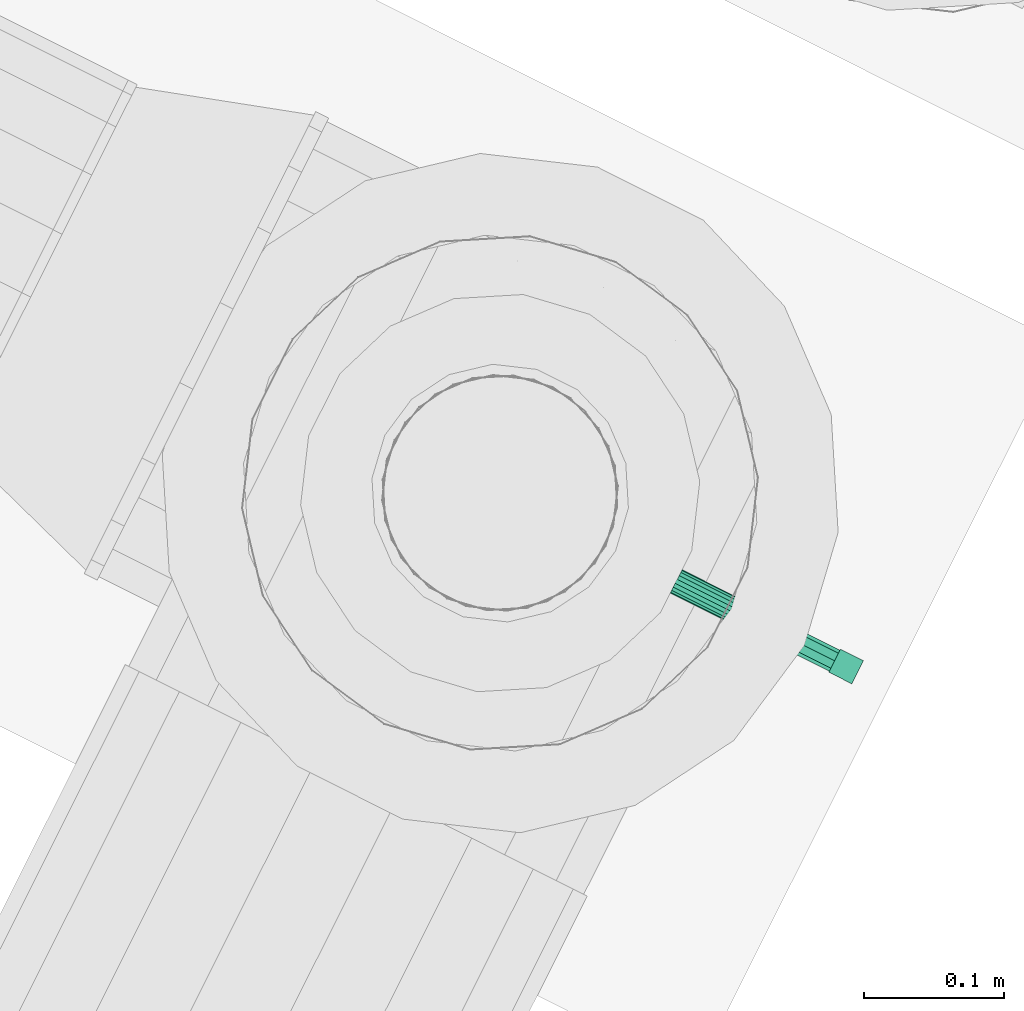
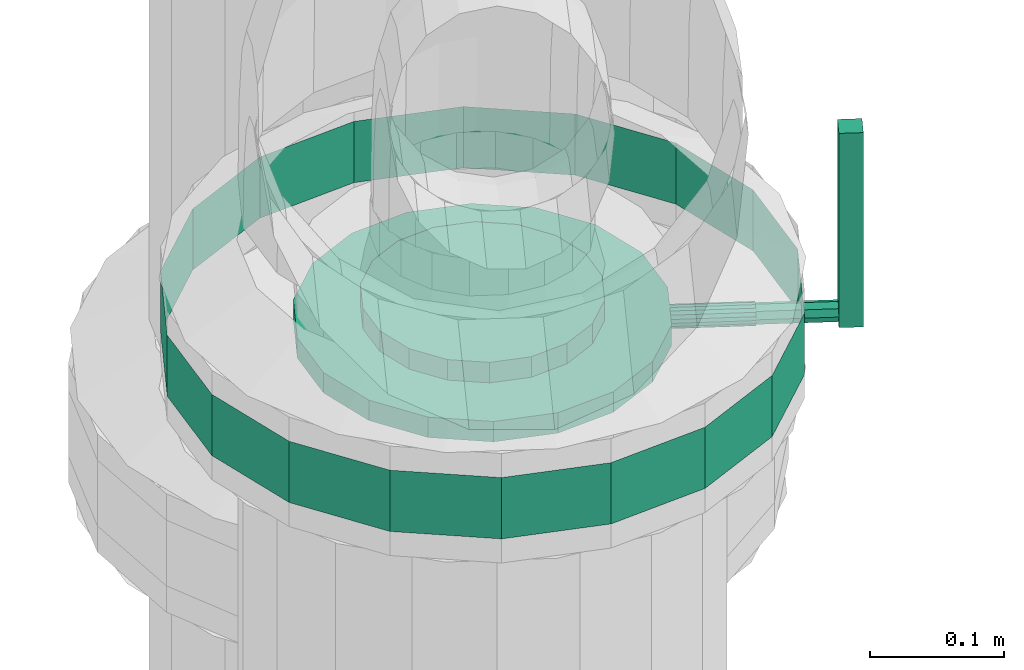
# One storey, part 133 of 152: 1 flow controller.
"""IFC2X3 building model written with IfcOpenShell, lengths in metres."""

from ifc_helpers import new_model, si_unit, derived_unit, direction, frame, origin, place, context, subcontext, project, spatial, face_set, surface_model, source, transform, mapped, material, type_object, type_shapes, element, save


model = new_model("IFC2X3")

# Units and contexts
model_context = context("Model", 3, precision=5.2338327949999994e-05, world=origin(), true_north=direction((0.0, 1.0)))
body_context = subcontext(model_context, "Body", "Model", "MODEL_VIEW")
ifc_project = project(units=[si_unit("LENGTHUNIT", "METRE"), si_unit("AREAUNIT", "SQUARE_METRE"), si_unit("VOLUMEUNIT", "CUBIC_METRE"), si_unit("MASSUNIT", "GRAM", prefix="KILO"), si_unit("PLANEANGLEUNIT", "RADIAN"), derived_unit("THERMALTRANSMITTANCEUNIT", [(si_unit("MASSUNIT", "GRAM", prefix="KILO"), 1), (si_unit("THERMODYNAMICTEMPERATUREUNIT", "KELVIN"), -1), (si_unit("TIMEUNIT", "SECOND"), -3)])], contexts=[model_context])

# Site, building, storey
site_placement = place(None, frame((0.0, 0.0, 0.0), z_axis=(0.0, 0.0, 1.0), x_axis=(0.8939966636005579, -0.4480736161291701, 0.0)))
site = spatial("IfcSite", under=ifc_project, at=site_placement, Name="Default", CompositionType="ELEMENT")
building_placement = place(site_placement, origin())
building = spatial("IfcBuilding", under=site, at=building_placement, CompositionType="ELEMENT")
storey_placement = place(building_placement, frame((0.0, 0.0, 2.7499999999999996)))
storey = spatial("IfcBuildingStorey", under=building, at=storey_placement, Name="1. Obergeschoss", CompositionType="ELEMENT", Elevation=2.7499999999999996)

# Flow controller
ifc_material = material(Name="IfcSurfaceStyle #9317")
distribution_element_type = type_object("IfcDistributionElementType", Name="Zwischenflanschklappe 221494:Zwischenflanschklappe 221494", material=ifc_material)
shared_shape = source(origin(), body_context, "Body", "SurfaceModel", [
    surface_model("IfcFaceBasedSurfaceModel", [(11.992414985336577, 7.336408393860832, 4.858603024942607), (11.992414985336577, 7.336408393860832, 4.681103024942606), (11.992414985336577, 7.318008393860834, 4.681103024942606), (11.992414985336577, 7.318008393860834, 4.858603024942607), (12.010814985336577, 7.318008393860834, 4.681103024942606), (12.010814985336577, 7.318008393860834, 4.858603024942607), (12.010814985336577, 7.336408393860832, 4.681103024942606), (12.010814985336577, 7.336408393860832, 4.858603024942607), (11.725814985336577, 7.235208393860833, 4.718303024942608), (11.694349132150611, 7.240756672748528, 4.718303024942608), (11.694349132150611, 7.240756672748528, 4.69963635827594), (11.725814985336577, 7.235208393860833, 4.69963635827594), (11.666678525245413, 7.256732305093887, 4.718303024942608), (11.666678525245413, 7.256732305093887, 4.69963635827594), (11.646140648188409, 7.281208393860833, 4.718303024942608), (11.646140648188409, 7.281208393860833, 4.69963635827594), (11.635212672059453, 7.311232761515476, 4.718303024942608), (11.635212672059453, 7.311232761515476, 4.69963635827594), (11.635212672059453, 7.34318402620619, 4.718303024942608), (11.635212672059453, 7.34318402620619, 4.69963635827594), (11.646140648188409, 7.373208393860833, 4.718303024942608), (11.646140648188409, 7.373208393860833, 4.69963635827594), (11.666678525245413, 7.3976844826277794, 4.718303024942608), (11.666678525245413, 7.3976844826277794, 4.69963635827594), (11.694349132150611, 7.413660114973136, 4.718303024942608), (11.694349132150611, 7.413660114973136, 4.69963635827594), (11.725814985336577, 7.419208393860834, 4.718303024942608), (11.725814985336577, 7.419208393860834, 4.69963635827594), (11.757280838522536, 7.413660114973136, 4.718303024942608), (11.757280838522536, 7.413660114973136, 4.69963635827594), (11.784951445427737, 7.3976844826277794, 4.718303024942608), (11.784951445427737, 7.3976844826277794, 4.69963635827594), (11.805489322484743, 7.373208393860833, 4.718303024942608), (11.805489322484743, 7.373208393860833, 4.69963635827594), (11.816417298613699, 7.34318402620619, 4.718303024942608), (11.816417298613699, 7.34318402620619, 4.69963635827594), (11.816417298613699, 7.311232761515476, 4.718303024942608), (11.816417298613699, 7.311232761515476, 4.69963635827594), (11.80548932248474, 7.281208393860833, 4.718303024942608), (11.80548932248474, 7.281208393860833, 4.69963635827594), (11.784951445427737, 7.256732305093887, 4.718303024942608), (11.784951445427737, 7.256732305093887, 4.69963635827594), (11.757280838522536, 7.240756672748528, 4.718303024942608), (11.757280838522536, 7.240756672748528, 4.69963635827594), (11.725814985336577, 7.3272083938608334, 4.718303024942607), (11.725814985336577, 7.3272083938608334, 4.6996363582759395), (11.725814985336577, 7.184708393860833, 4.69963635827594), (11.677077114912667, 7.19330219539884, 4.69963635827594), (11.677077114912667, 7.19330219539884, 4.680969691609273), (11.725814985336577, 7.184708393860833, 4.680969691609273), (11.634217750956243, 7.218047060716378, 4.69963635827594), (11.634217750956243, 7.218047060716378, 4.680969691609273), (11.602406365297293, 7.255958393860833, 4.69963635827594), (11.602406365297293, 7.255958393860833, 4.680969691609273), (11.585479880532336, 7.302463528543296, 4.69963635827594), (11.585479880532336, 7.302463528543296, 4.680969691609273), (11.585479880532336, 7.351953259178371, 4.69963635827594), (11.585479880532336, 7.351953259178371, 4.680969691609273), (11.602406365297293, 7.3984583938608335, 4.69963635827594), (11.602406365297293, 7.3984583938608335, 4.680969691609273), (11.634217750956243, 7.436369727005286, 4.69963635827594), (11.634217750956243, 7.436369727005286, 4.680969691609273), (11.677077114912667, 7.461114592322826, 4.69963635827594), (11.677077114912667, 7.461114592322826, 4.680969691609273), (11.725814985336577, 7.4697083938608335, 4.69963635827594), (11.725814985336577, 7.4697083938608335, 4.680969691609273), (11.774552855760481, 7.461114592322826, 4.69963635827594), (11.774552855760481, 7.461114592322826, 4.680969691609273), (11.817412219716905, 7.436369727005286, 4.69963635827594), (11.817412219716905, 7.436369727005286, 4.680969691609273), (11.84922360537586, 7.3984583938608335, 4.69963635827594), (11.84922360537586, 7.3984583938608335, 4.680969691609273), (11.866150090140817, 7.351953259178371, 4.69963635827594), (11.866150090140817, 7.351953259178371, 4.680969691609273), (11.866150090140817, 7.302463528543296, 4.69963635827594), (11.866150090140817, 7.302463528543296, 4.680969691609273), (11.84922360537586, 7.255958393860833, 4.69963635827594), (11.84922360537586, 7.255958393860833, 4.680969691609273), (11.817412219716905, 7.218047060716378, 4.69963635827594), (11.817412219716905, 7.218047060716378, 4.680969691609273), (11.774552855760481, 7.19330219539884, 4.69963635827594), (11.774552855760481, 7.19330219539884, 4.680969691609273), (11.725814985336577, 7.3272083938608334, 4.680969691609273), (11.725814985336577, 7.235208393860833, 4.680969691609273), (11.694349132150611, 7.240756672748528, 4.680969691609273), (11.694349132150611, 7.240756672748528, 4.662303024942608), (11.725814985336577, 7.235208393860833, 4.662303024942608), (11.666678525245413, 7.256732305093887, 4.680969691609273), (11.666678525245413, 7.256732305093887, 4.662303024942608), (11.646140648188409, 7.281208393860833, 4.680969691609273), (11.646140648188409, 7.281208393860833, 4.662303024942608), (11.635212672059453, 7.311232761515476, 4.680969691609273), (11.635212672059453, 7.311232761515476, 4.662303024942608), (11.635212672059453, 7.34318402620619, 4.680969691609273), (11.635212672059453, 7.34318402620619, 4.662303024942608), (11.646140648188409, 7.373208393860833, 4.680969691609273), (11.646140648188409, 7.373208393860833, 4.662303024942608), (11.666678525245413, 7.3976844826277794, 4.680969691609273), (11.666678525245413, 7.3976844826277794, 4.662303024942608), (11.694349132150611, 7.413660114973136, 4.680969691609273), (11.694349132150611, 7.413660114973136, 4.662303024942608), (11.725814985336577, 7.419208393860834, 4.680969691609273), (11.725814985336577, 7.419208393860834, 4.662303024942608), (11.757280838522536, 7.413660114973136, 4.680969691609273), (11.757280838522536, 7.413660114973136, 4.662303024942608), (11.784951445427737, 7.3976844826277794, 4.680969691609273), (11.784951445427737, 7.3976844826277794, 4.662303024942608), (11.805489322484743, 7.373208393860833, 4.680969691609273), (11.805489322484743, 7.373208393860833, 4.662303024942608), (11.816417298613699, 7.34318402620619, 4.680969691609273), (11.816417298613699, 7.34318402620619, 4.662303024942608), (11.816417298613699, 7.311232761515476, 4.680969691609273), (11.816417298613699, 7.311232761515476, 4.662303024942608), (11.80548932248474, 7.281208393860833, 4.680969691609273), (11.80548932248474, 7.281208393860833, 4.662303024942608), (11.784951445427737, 7.256732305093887, 4.680969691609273), (11.784951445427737, 7.256732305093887, 4.662303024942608), (11.757280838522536, 7.240756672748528, 4.680969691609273), (11.757280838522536, 7.240756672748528, 4.662303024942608), (11.725814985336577, 7.3272083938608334, 4.662303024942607), (11.725814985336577, 7.317875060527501, 4.690303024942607), (11.725814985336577, 7.318437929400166, 4.687110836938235), (11.930364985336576, 7.318437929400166, 4.687110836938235), (11.930364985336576, 7.317875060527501, 4.690303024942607), (11.725814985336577, 7.320058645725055, 4.684303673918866), (11.930364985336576, 7.320058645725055, 4.684303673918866), (11.725814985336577, 7.3225417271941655, 4.682220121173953), (11.930364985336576, 7.3225417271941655, 4.682220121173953), (11.725814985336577, 7.3255876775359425, 4.681111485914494), (11.930364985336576, 7.3255876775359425, 4.681111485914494), (11.725814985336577, 7.328829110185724, 4.681111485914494), (11.930364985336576, 7.328829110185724, 4.681111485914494), (11.725814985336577, 7.3318750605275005, 4.682220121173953), (11.930364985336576, 7.3318750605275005, 4.682220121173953), (11.725814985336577, 7.33435814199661, 4.6843036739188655), (11.930364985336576, 7.33435814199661, 4.6843036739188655), (11.725814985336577, 7.335978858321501, 4.687110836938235), (11.930364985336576, 7.335978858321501, 4.687110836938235), (11.725814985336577, 7.336541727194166, 4.690303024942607), (11.930364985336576, 7.336541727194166, 4.690303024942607), (11.725814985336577, 7.335978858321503, 4.6934952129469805), (11.930364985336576, 7.335978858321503, 4.6934952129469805), (11.725814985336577, 7.33435814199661, 4.696302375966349), (11.930364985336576, 7.33435814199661, 4.696302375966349), (11.725814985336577, 7.3318750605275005, 4.6983859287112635), (11.930364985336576, 7.3318750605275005, 4.6983859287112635), (11.725814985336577, 7.328829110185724, 4.699494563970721), (11.930364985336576, 7.328829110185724, 4.699494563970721), (11.725814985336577, 7.3255876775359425, 4.699494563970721), (11.930364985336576, 7.3255876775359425, 4.699494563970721), (11.725814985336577, 7.3225417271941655, 4.698385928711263), (11.930364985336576, 7.3225417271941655, 4.698385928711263), (11.725814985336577, 7.320058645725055, 4.696302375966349), (11.930364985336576, 7.320058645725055, 4.696302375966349), (11.725814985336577, 7.318437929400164, 4.6934952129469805), (11.930364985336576, 7.318437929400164, 4.6934952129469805), (11.725814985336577, 7.3272083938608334, 4.690303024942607), (11.930364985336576, 7.3272083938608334, 4.690303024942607), (11.930364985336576, 7.318793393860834, 4.690303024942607), (11.930364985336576, 7.32125809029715, 4.6843527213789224), (11.992414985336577, 7.32125809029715, 4.6843527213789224), (11.992414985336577, 7.318793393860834, 4.690303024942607), (11.930364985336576, 7.3272083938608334, 4.681888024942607), (11.992414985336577, 7.3272083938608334, 4.681888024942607), (11.930364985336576, 7.333158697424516, 4.6843527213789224), (11.992414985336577, 7.333158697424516, 4.6843527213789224), (11.930364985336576, 7.335623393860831, 4.690303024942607), (11.992414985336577, 7.335623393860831, 4.690303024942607), (11.930364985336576, 7.333158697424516, 4.696253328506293), (11.992414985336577, 7.333158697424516, 4.696253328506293), (11.930364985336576, 7.3272083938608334, 4.698718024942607), (11.992414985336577, 7.3272083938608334, 4.698718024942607), (11.930364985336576, 7.321258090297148, 4.696253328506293), (11.992414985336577, 7.321258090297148, 4.696253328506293), (11.992414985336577, 7.3272083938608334, 4.690303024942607), (11.725814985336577, 7.084708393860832, 4.718303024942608), (11.6428751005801, 7.09933293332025, 4.718303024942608), (11.6428751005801, 7.09933293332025, 4.662303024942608), (11.725814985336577, 7.084708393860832, 4.662303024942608), (11.569938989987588, 7.14144261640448, 4.718303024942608), (11.569938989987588, 7.14144261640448, 4.662303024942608), (11.515803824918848, 7.205958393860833, 4.718303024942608), (11.515803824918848, 7.205958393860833, 4.662303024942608), (11.486999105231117, 7.2850987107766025, 4.718303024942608), (11.486999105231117, 7.2850987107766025, 4.662303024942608), (11.486999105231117, 7.3693180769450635, 4.718303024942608), (11.486999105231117, 7.3693180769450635, 4.662303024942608), (11.515803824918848, 7.448458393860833, 4.718303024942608), (11.515803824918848, 7.448458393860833, 4.662303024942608), (11.569938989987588, 7.512974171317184, 4.718303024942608), (11.569938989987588, 7.512974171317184, 4.662303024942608), (11.6428751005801, 7.555083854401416, 4.718303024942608), (11.6428751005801, 7.555083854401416, 4.662303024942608), (11.725814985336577, 7.569708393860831, 4.718303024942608), (11.725814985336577, 7.569708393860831, 4.662303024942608), (11.80875487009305, 7.555083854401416, 4.718303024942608), (11.80875487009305, 7.555083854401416, 4.662303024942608), (11.88169098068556, 7.512974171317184, 4.718303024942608), (11.88169098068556, 7.512974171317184, 4.662303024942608), (11.9358261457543, 7.448458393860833, 4.718303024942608), (11.9358261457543, 7.448458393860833, 4.662303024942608), (11.964630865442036, 7.3693180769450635, 4.718303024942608), (11.964630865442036, 7.3693180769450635, 4.662303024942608), (11.964630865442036, 7.2850987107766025, 4.718303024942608), (11.964630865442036, 7.2850987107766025, 4.662303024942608), (11.935826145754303, 7.205958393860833, 4.718303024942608), (11.935826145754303, 7.205958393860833, 4.662303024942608), (11.88169098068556, 7.14144261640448, 4.718303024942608), (11.88169098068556, 7.14144261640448, 4.662303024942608), (11.80875487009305, 7.09933293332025, 4.718303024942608), (11.80875487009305, 7.09933293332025, 4.662303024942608)], [face_set([[[0, 1, 2, 3]], [[3, 2, 4, 5]], [[5, 4, 6, 7]], [[7, 6, 1, 0]], [[0, 3, 5, 7]], [[6, 4, 2, 1]], [[8, 9, 10, 11]], [[9, 12, 13, 10]], [[12, 14, 15, 13]], [[14, 16, 17, 15]], [[16, 18, 19, 17]], [[18, 20, 21, 19]], [[20, 22, 23, 21]], [[22, 24, 25, 23]], [[24, 26, 27, 25]], [[26, 28, 29, 27]], [[28, 30, 31, 29]], [[30, 32, 33, 31]], [[32, 34, 35, 33]], [[34, 36, 37, 35]], [[36, 38, 39, 37]], [[38, 40, 41, 39]], [[40, 42, 43, 41]], [[42, 8, 11, 43]], [[44, 9, 8]], [[44, 12, 9]], [[44, 14, 12]], [[44, 16, 14]], [[44, 18, 16]], [[44, 20, 18]], [[44, 22, 20]], [[44, 24, 22]], [[44, 26, 24]], [[44, 28, 26]], [[44, 30, 28]], [[44, 32, 30]], [[44, 34, 32]], [[44, 36, 34]], [[44, 38, 36]], [[44, 40, 38]], [[44, 42, 40]], [[44, 8, 42]], [[45, 43, 11]], [[45, 41, 43]], [[45, 39, 41]], [[45, 37, 39]], [[45, 35, 37]], [[45, 33, 35]], [[45, 31, 33]], [[45, 29, 31]], [[45, 27, 29]], [[45, 25, 27]], [[45, 23, 25]], [[45, 21, 23]], [[45, 19, 21]], [[45, 17, 19]], [[45, 15, 17]], [[45, 13, 15]], [[45, 10, 13]], [[45, 11, 10]], [[46, 47, 48, 49]], [[47, 50, 51, 48]], [[50, 52, 53, 51]], [[52, 54, 55, 53]], [[54, 56, 57, 55]], [[56, 58, 59, 57]], [[58, 60, 61, 59]], [[60, 62, 63, 61]], [[62, 64, 65, 63]], [[64, 66, 67, 65]], [[66, 68, 69, 67]], [[68, 70, 71, 69]], [[70, 72, 73, 71]], [[72, 74, 75, 73]], [[74, 76, 77, 75]], [[76, 78, 79, 77]], [[78, 80, 81, 79]], [[80, 46, 49, 81]], [[45, 47, 46]], [[45, 50, 47]], [[45, 52, 50]], [[45, 54, 52]], [[45, 56, 54]], [[45, 58, 56]], [[45, 60, 58]], [[45, 62, 60]], [[45, 64, 62]], [[45, 66, 64]], [[45, 68, 66]], [[45, 70, 68]], [[45, 72, 70]], [[45, 74, 72]], [[45, 76, 74]], [[45, 78, 76]], [[45, 80, 78]], [[45, 46, 80]], [[82, 81, 49]], [[82, 79, 81]], [[82, 77, 79]], [[82, 75, 77]], [[82, 73, 75]], [[82, 71, 73]], [[82, 69, 71]], [[82, 67, 69]], [[82, 65, 67]], [[82, 63, 65]], [[82, 61, 63]], [[82, 59, 61]], [[82, 57, 59]], [[82, 55, 57]], [[82, 53, 55]], [[82, 51, 53]], [[82, 48, 51]], [[82, 49, 48]], [[83, 84, 85, 86]], [[84, 87, 88, 85]], [[87, 89, 90, 88]], [[89, 91, 92, 90]], [[91, 93, 94, 92]], [[93, 95, 96, 94]], [[95, 97, 98, 96]], [[97, 99, 100, 98]], [[99, 101, 102, 100]], [[101, 103, 104, 102]], [[103, 105, 106, 104]], [[105, 107, 108, 106]], [[107, 109, 110, 108]], [[109, 111, 112, 110]], [[111, 113, 114, 112]], [[113, 115, 116, 114]], [[115, 117, 118, 116]], [[117, 83, 86, 118]], [[82, 84, 83]], [[82, 87, 84]], [[82, 89, 87]], [[82, 91, 89]], [[82, 93, 91]], [[82, 95, 93]], [[82, 97, 95]], [[82, 99, 97]], [[82, 101, 99]], [[82, 103, 101]], [[82, 105, 103]], [[82, 107, 105]], [[82, 109, 107]], [[82, 111, 109]], [[82, 113, 111]], [[82, 115, 113]], [[82, 117, 115]], [[82, 83, 117]], [[119, 118, 86]], [[119, 116, 118]], [[119, 114, 116]], [[119, 112, 114]], [[119, 110, 112]], [[119, 108, 110]], [[119, 106, 108]], [[119, 104, 106]], [[119, 102, 104]], [[119, 100, 102]], [[119, 98, 100]], [[119, 96, 98]], [[119, 94, 96]], [[119, 92, 94]], [[119, 90, 92]], [[119, 88, 90]], [[119, 85, 88]], [[119, 86, 85]], [[120, 121, 122, 123]], [[121, 124, 125, 122]], [[124, 126, 127, 125]], [[126, 128, 129, 127]], [[128, 130, 131, 129]], [[130, 132, 133, 131]], [[132, 134, 135, 133]], [[134, 136, 137, 135]], [[136, 138, 139, 137]], [[138, 140, 141, 139]], [[140, 142, 143, 141]], [[142, 144, 145, 143]], [[144, 146, 147, 145]], [[146, 148, 149, 147]], [[148, 150, 151, 149]], [[150, 152, 153, 151]], [[152, 154, 155, 153]], [[154, 120, 123, 155]], [[156, 121, 120]], [[156, 124, 121]], [[156, 126, 124]], [[156, 128, 126]], [[156, 130, 128]], [[156, 132, 130]], [[156, 134, 132]], [[156, 136, 134]], [[156, 138, 136]], [[156, 140, 138]], [[156, 142, 140]], [[156, 144, 142]], [[156, 146, 144]], [[156, 148, 146]], [[156, 150, 148]], [[156, 152, 150]], [[156, 154, 152]], [[156, 120, 154]], [[157, 155, 123]], [[157, 153, 155]], [[157, 151, 153]], [[157, 149, 151]], [[157, 147, 149]], [[157, 145, 147]], [[157, 143, 145]], [[157, 141, 143]], [[157, 139, 141]], [[157, 137, 139]], [[157, 135, 137]], [[157, 133, 135]], [[157, 131, 133]], [[157, 129, 131]], [[157, 127, 129]], [[157, 125, 127]], [[157, 122, 125]], [[157, 123, 122]], [[158, 159, 160, 161]], [[159, 162, 163, 160]], [[162, 164, 165, 163]], [[164, 166, 167, 165]], [[166, 168, 169, 167]], [[168, 170, 171, 169]], [[170, 172, 173, 171]], [[172, 158, 161, 173]], [[174, 173, 161]], [[174, 171, 173]], [[174, 169, 171]], [[174, 167, 169]], [[174, 165, 167]], [[174, 163, 165]], [[174, 160, 163]], [[174, 161, 160]], [[175, 176, 177, 178]], [[176, 179, 180, 177]], [[179, 181, 182, 180]], [[181, 183, 184, 182]], [[183, 185, 186, 184]], [[185, 187, 188, 186]], [[187, 189, 190, 188]], [[189, 191, 192, 190]], [[191, 193, 194, 192]], [[193, 195, 196, 194]], [[195, 197, 198, 196]], [[197, 199, 200, 198]], [[199, 201, 202, 200]], [[201, 203, 204, 202]], [[203, 205, 206, 204]], [[205, 207, 208, 206]], [[207, 209, 210, 208]], [[209, 175, 178, 210]]])]),
])
type_shapes(distribution_element_type, [shared_shape])
flow_controller_placement = place(storey_placement, frame((0.0, 0.0, -2.7499999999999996)))
element("IfcFlowController", 1, at=flow_controller_placement, inside=storey, type_object=distribution_element_type, material=ifc_material, Name="Zwischenflanschklappe", ObjectType="Zwischenflanschklappe", context=body_context, shape_type="MappedRepresentation", body=[
    mapped(shared_shape, transform((0.0, 0.0, 0.0), scale=1.0)),
])

save(model, "model.ifc")
